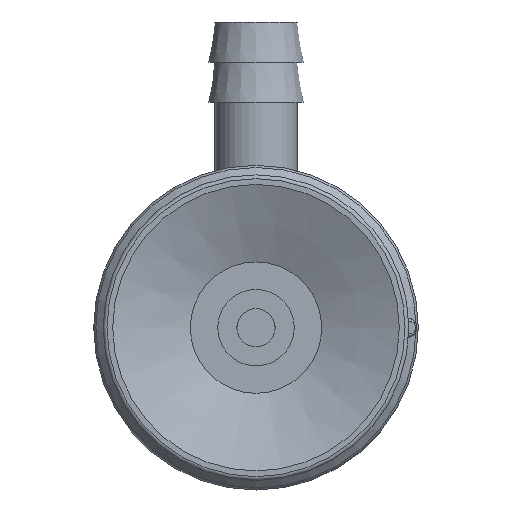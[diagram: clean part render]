
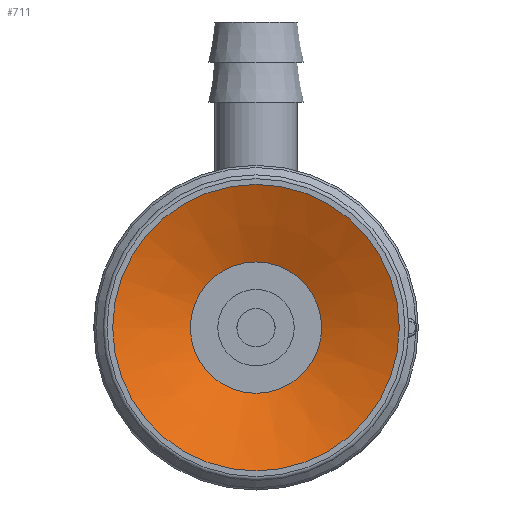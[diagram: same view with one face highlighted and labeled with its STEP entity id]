
A CAD part, front view. The second image highlights one B-rep face of the part: STEP entity #711.
In plain terms, the highlighted conical face has half-angle 67.5 degrees and reference radius 3.437 mm.
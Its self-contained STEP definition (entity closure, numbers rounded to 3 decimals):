
#711=ADVANCED_FACE('',(#1026,#1027),#1028,.F.);
#1026=FACE_BOUND('',#2406,.T.);
#1027=FACE_OUTER_BOUND('',#2407,.T.);
#1028=CONICAL_SURFACE('',#2408,3.437,1.178);
#2406=EDGE_LOOP('',(#3275));
#2407=EDGE_LOOP('',(#3276));
#2408=AXIS2_PLACEMENT_3D('',#3277,#3278,#3279);
#3275=ORIENTED_EDGE('',*,*,#3683,.F.);
#3276=ORIENTED_EDGE('',*,*,#3671,.T.);
#3277=CARTESIAN_POINT('',(0.0,0.0,1.683));
#3278=DIRECTION('',(0.0,0.,-1.0));
#3279=DIRECTION('',(0.0,1.0,0.));
#3671=EDGE_CURVE('',#4087,#4087,#4088,.T.);
#3683=EDGE_CURVE('',#4111,#4111,#4112,.T.);
#4087=VERTEX_POINT('',#5176);
#4088=CIRCLE('',#5177,7.5);
#4111=VERTEX_POINT('',#5200);
#4112=CIRCLE('',#5201,3.437);
#5176=CARTESIAN_POINT('',(-7.5,0.0,0.));
#5177=AXIS2_PLACEMENT_3D('',#5564,#5565,#5566);
#5200=CARTESIAN_POINT('',(-3.437,0.0,1.683));
#5201=AXIS2_PLACEMENT_3D('',#5600,#5601,#5602);
#5564=CARTESIAN_POINT('',(0.0,0.0,0.));
#5565=DIRECTION('',(0.0,0.,-1.0));
#5566=DIRECTION('',(0.0,1.0,0.));
#5600=CARTESIAN_POINT('',(0.0,0.0,1.683));
#5601=DIRECTION('',(0.0,0.,-1.0));
#5602=DIRECTION('',(0.0,1.0,0.));
